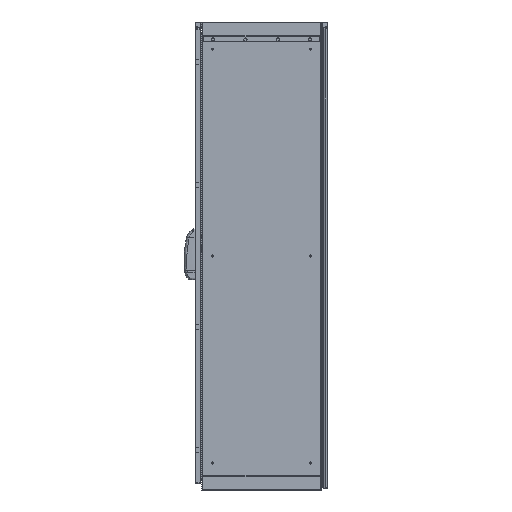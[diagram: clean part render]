
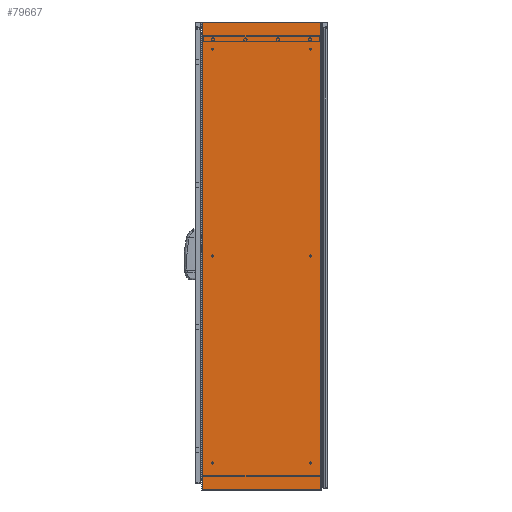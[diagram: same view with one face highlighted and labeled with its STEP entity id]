
A CAD part, left-side view. The second image highlights one B-rep face of the part: STEP entity #79667.
In plain terms, the highlighted planar face has unit normal (-1, 0, 0).
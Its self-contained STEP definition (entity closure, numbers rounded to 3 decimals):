
#4657 = CARTESIAN_POINT ( 'NONE',  ( -800., 229.43, 0. ) ) ;
#7587 = ORIENTED_EDGE ( 'NONE', *, *, #64296, .T. ) ;
#11350 = EDGE_CURVE ( 'NONE', #99154, #79246, #54863, .T. ) ;
#15961 = DIRECTION ( 'NONE',  ( 0., -1., 0. ) ) ;
#22991 = DIRECTION ( 'NONE',  ( 0., 0., -1. ) ) ;
#23549 = CARTESIAN_POINT ( 'NONE',  ( -800., 233.5, 1809. ) ) ;
#23611 = CARTESIAN_POINT ( 'NONE',  ( -800., 229.43, 1809. ) ) ;
#23678 = LINE ( 'NONE', #25003, #33992 ) ;
#25003 = CARTESIAN_POINT ( 'NONE',  ( -800., 233.5, 1809. ) ) ;
#28813 = CARTESIAN_POINT ( 'NONE',  ( -800., 233.5, 0. ) ) ;
#30398 = FACE_OUTER_BOUND ( 'NONE', #67497, .T. ) ;
#33992 = VECTOR ( 'NONE', #65126, 1000. ) ;
#35306 = EDGE_CURVE ( 'NONE', #77113, #62392, #38215, .T. ) ;
#38215 = LINE ( 'NONE', #77698, #115974 ) ;
#43901 = DIRECTION ( 'NONE',  ( 1., 0., 0. ) ) ;
#52270 = VECTOR ( 'NONE', #22991, 1000. ) ;
#54863 = LINE ( 'NONE', #116105, #52270 ) ;
#62392 = VERTEX_POINT ( 'NONE', #98992 ) ;
#63984 = ORIENTED_EDGE ( 'NONE', *, *, #119667, .F. ) ;
#64296 = EDGE_CURVE ( 'NONE', #79246, #77113, #121940, .T. ) ;
#65126 = DIRECTION ( 'NONE',  ( 0., -1., 0. ) ) ;
#66609 = ORIENTED_EDGE ( 'NONE', *, *, #11350, .T. ) ;
#67497 = EDGE_LOOP ( 'NONE', ( #7587, #84010, #63984, #66609 ) ) ;
#77113 = VERTEX_POINT ( 'NONE', #120503 ) ;
#77698 = CARTESIAN_POINT ( 'NONE',  ( -800., -229.43, 1809. ) ) ;
#79246 = VERTEX_POINT ( 'NONE', #4657 ) ;
#79667 = ADVANCED_FACE ( 'NONE', ( #30398 ), #116671, .F. ) ;
#84010 = ORIENTED_EDGE ( 'NONE', *, *, #35306, .T. ) ;
#86754 = DIRECTION ( 'NONE',  ( 0., 0., -1. ) ) ;
#90657 = AXIS2_PLACEMENT_3D ( 'NONE', #23549, #43901, #86754 ) ;
#98520 = VECTOR ( 'NONE', #15961, 1000. ) ;
#98992 = CARTESIAN_POINT ( 'NONE',  ( -800., -229.43, 1809. ) ) ;
#99154 = VERTEX_POINT ( 'NONE', #23611 ) ;
#115974 = VECTOR ( 'NONE', #119169, 1000. ) ;
#116105 = CARTESIAN_POINT ( 'NONE',  ( -800., 229.43, 1809. ) ) ;
#116671 = PLANE ( 'NONE',  #90657 ) ;
#119169 = DIRECTION ( 'NONE',  ( 0., 0., 1. ) ) ;
#119667 = EDGE_CURVE ( 'NONE', #99154, #62392, #23678, .T. ) ;
#120503 = CARTESIAN_POINT ( 'NONE',  ( -800., -229.43, 0. ) ) ;
#121940 = LINE ( 'NONE', #28813, #98520 ) ;
